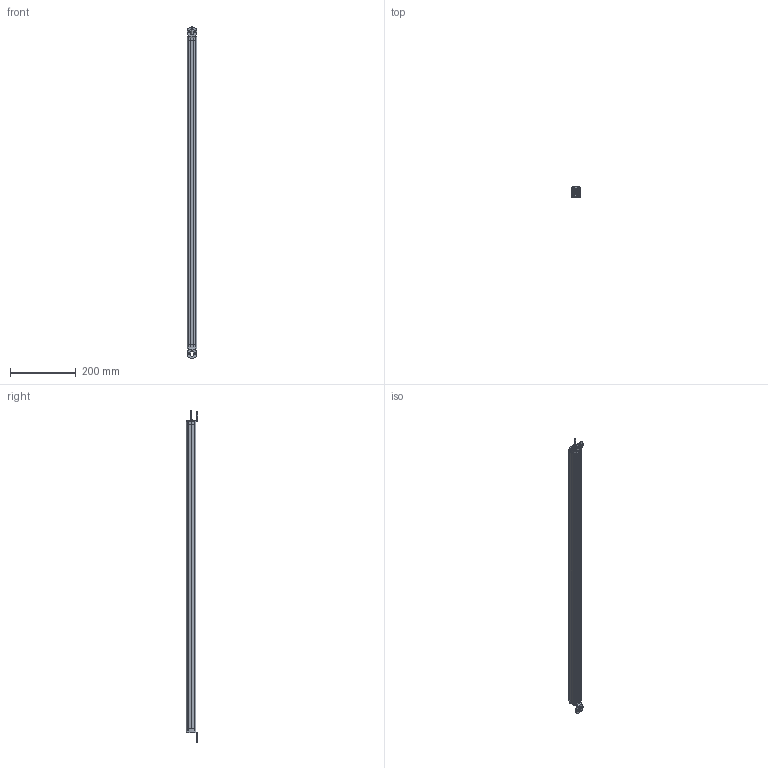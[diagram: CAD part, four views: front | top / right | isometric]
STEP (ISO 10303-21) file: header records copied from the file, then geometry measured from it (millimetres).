
FILE_DESCRIPTION (( 'STEP AP203' ), '1' );
FILE_NAME ('KT14-66910.STEP', '2022-08-25T03:55:32', ( '微软用户' ), ( '微软中国' ), 'SwSTEP 2.0', 'SolidWorks 2020', '' );
FILE_SCHEMA (( 'CONFIG_CONTROL_DESIGN' ));
Length unit declared in the file: millimetre
Products named in the file (4): 光同步29X29 出线塑料盖1; 29x29倰第; 光同步29X29 出线塑料盖2; KT14-66910
Assembly tree (3 placements, depth 2):
  KT14-66910
    29x29倰第
    光同步29X29 出线塑料盖1
    光同步29X29 出线塑料盖2
Bounding box: 30 x 34 x 1010 mm (x, y, z)
Volume: 699389.1 mm3; surface area: 145393.3 mm2
Topology: 4 solids, 12 shells, 661 faces, 1760 edges, 1138 vertices
Faces by surface type: cylinder 299, plane 269, bspline 54, cone 39
Entity records: 30323 total; most frequent: CARTESIAN_POINT 13492, ORIENTED_EDGE 3510, DIRECTION 3352, EDGE_CURVE 1758, AXIS2_PLACEMENT_3D 1220, VERTEX_POINT 1138, VECTOR 912, LINE 912
